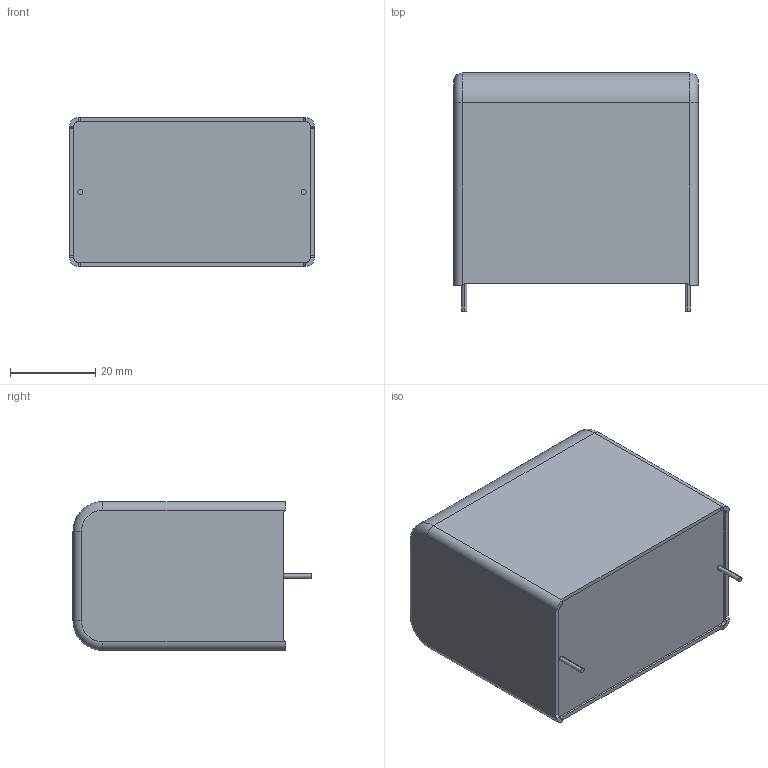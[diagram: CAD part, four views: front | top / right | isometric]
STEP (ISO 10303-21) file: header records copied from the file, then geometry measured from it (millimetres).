
FILE_DESCRIPTION (( 'STEP AP203' ), '1' );
FILE_NAME ('DC_Link_35x50x57.5_2pins.step', '2017-04-03T16:00:14', ( 'work' ), ( 'Hewlett-Packard Company' ), 'SwSTEP 2.0', 'SolidWorks 2017', '' );
FILE_SCHEMA (( 'CONFIG_CONTROL_DESIGN' ));
Length unit declared in the file: millimetre
Products named in the file (1): DC_Link_35x50x57.5_2pins
Bounding box: 57.5 x 56 x 35 mm (x, y, z)
Volume: 97293.7 mm3; surface area: 12723.8 mm2
Topology: 1 solids, 1 shells, 116 faces, 291 edges, 186 vertices
Faces by surface type: plane 80, cylinder 16, bspline 16, torus 4
Entity records: 4188 total; most frequent: CARTESIAN_POINT 1418, ORIENTED_EDGE 582, DIRECTION 497, EDGE_CURVE 291, VECTOR 223, LINE 223, VERTEX_POINT 186, AXIS2_PLACEMENT_3D 137
